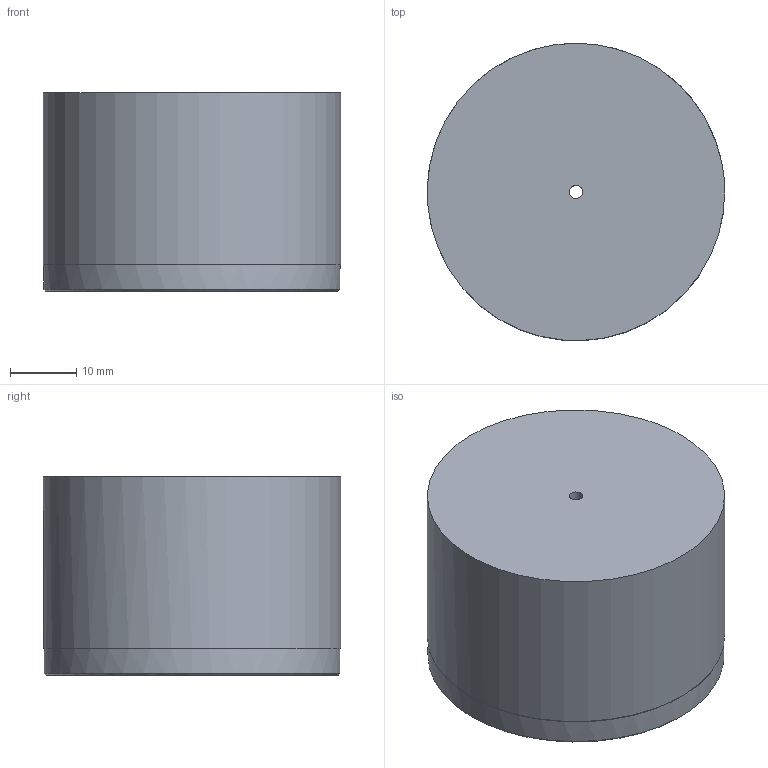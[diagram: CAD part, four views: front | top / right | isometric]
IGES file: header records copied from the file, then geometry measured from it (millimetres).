
Start section: C
Global section: file name: MSPBSC451230.igs; native system: By Siemens PLM Incorporated; preprocessor: XPlus GENERIC/IGES 18.0.17; author: Author; organization: Title; date: 20240726.163141; units: millimetre
Bounding box: 45 x 44.98 x 30 mm (x, y, z)
Volume: 29453.2 mm3; surface area: 9453.2 mm2
Topology: 1 solids, 1 shells, 289 faces, 756 edges, 504 vertices
Faces by surface type: bspline 289
